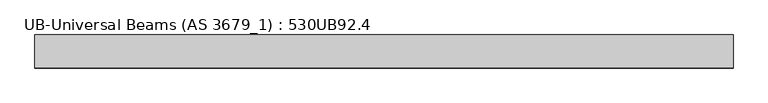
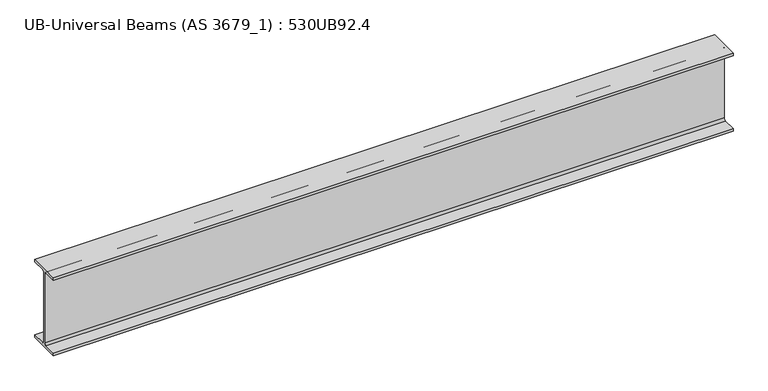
"""IFC4 building model written with IfcOpenShell, lengths in millimetres: beam geometry, UB-Universal Beams (AS 3679_1) : 530UB92.4."""

import ifcopenshell
import ifcopenshell.guid

model = None  # the IFC model being written
_history = None  # IfcOwnerHistory: only IFC2X3 demands one
_inside = {}  # id of a spatial element -> (the spatial element, [elements in it])
_under = {}  # id of a project, library or spatial element -> (it, [spatial elements below it])
_declared = {}  # id of a project -> (the project, [libraries it declares])
_typed = {}  # id of a type object -> (the type object, [elements of that type])
_made_of = {}  # id of a material, layer set ... -> (it, [elements and type objects made of it])


def new_model(schema):
    """Start an empty IFC model of exactly this schema.

    Asked for "IFC4X3", IfcOpenShell would pick the latest addendum, in which some entities
    have other attributes; the version numbers below select the first issue.
    IFC2X3 requires an IfcOwnerHistory on every rooted entity: one is made here for all.
    """
    global model, _history
    if schema == "IFC4X3":
        model = ifcopenshell.file(schema_version=(4, 3, 0, 0))
    else:
        model = ifcopenshell.file(schema=schema)
    _inside.clear()
    _under.clear()
    _declared.clear()
    _typed.clear()
    _made_of.clear()
    _history = None
    if model.schema == "IFC2X3":
        org = make("IfcOrganization", Name="unknown")
        user = make(
            "IfcPersonAndOrganization",
            ThePerson=make("IfcPerson", FamilyName="unknown"),
            TheOrganization=org,
        )
        app = make(
            "IfcApplication",
            ApplicationDeveloper=org,
            Version="unknown",
            ApplicationFullName="unknown",
            ApplicationIdentifier="unknown",
        )
        _history = make(
            "IfcOwnerHistory",
            OwningUser=user,
            OwningApplication=app,
            ChangeAction="ADDED",
            CreationDate=0,
        )
    return model


def make(cls, **values):
    """One entity of the class cls with the attributes given. An attribute that is None is left unset."""
    return model.create_entity(
        cls, **{name: value for name, value in values.items() if value is not None}
    )


def rooted(cls, **values):
    """An entity with a GlobalId (a new one), such as an element, a storey or a relation."""
    return make(cls, GlobalId=ifcopenshell.guid.new(), OwnerHistory=_history, **values)


def si_unit(unit_type, name, prefix=None):
    """IfcSIUnit, for example si_unit("LENGTHUNIT", "METRE", prefix="MILLI")."""
    return make("IfcSIUnit", UnitType=unit_type, Prefix=prefix, Name=name)


def assignment(units):
    """IfcUnitAssignment: the units of a project."""
    return None if units is None else make("IfcUnitAssignment", Units=units)


def point(xyz):
    """IfcCartesianPoint."""
    return None if xyz is None else make("IfcCartesianPoint", Coordinates=xyz)


def direction(xyz):
    """IfcDirection."""
    return None if xyz is None else make("IfcDirection", DirectionRatios=xyz)


def frame(location, z_axis=None, x_axis=None):
    """IfcAxis2Placement3D, a coordinate frame: its origin and axes. An axis left out is left unset."""
    return make(
        "IfcAxis2Placement3D",
        Location=point(location),
        Axis=direction(z_axis),
        RefDirection=direction(x_axis),
    )


def frame_2d(location, x_axis=None):
    """IfcAxis2Placement2D, a coordinate frame in the plane: its origin and x axis."""
    return make(
        "IfcAxis2Placement2D", Location=point(location), RefDirection=direction(x_axis)
    )


def origin():
    """The frame at (0, 0, 0) with its axes left unset."""
    return frame((0.0, 0.0, 0.0))


def place(relative_to, where):
    """IfcLocalPlacement: puts the frame where relative to a parent placement (None: the world)."""
    return make(
        "IfcLocalPlacement", PlacementRelTo=relative_to, RelativePlacement=where
    )


def context(
    kind, dimensions, precision=None, world=None, true_north=None, identifier=None
):
    """IfcGeometricRepresentationContext, for example the 3D "Model" context."""
    return make(
        "IfcGeometricRepresentationContext",
        ContextIdentifier=identifier,
        ContextType=kind,
        CoordinateSpaceDimension=dimensions,
        Precision=precision,
        WorldCoordinateSystem=world,
        TrueNorth=true_north,
    )


def project(units=None, contexts=None):
    """IfcProject with its units and contexts."""
    return rooted(
        "IfcProject",
        Name="project",
        RepresentationContexts=contexts,
        UnitsInContext=assignment(units),
    )


def spatial(cls, under=None, at=None, **own):
    """A site, building, storey or space (cls), placed at a placement, below another one or the project."""
    s = rooted(cls, ObjectPlacement=at, **own)
    if under is not None:
        _under.setdefault(under.id(), (under, []))[1].append(s)
    return s


def polyline(points):
    """IfcPolyline through the points."""
    return make("IfcPolyline", Points=[point(p) for p in points])


def circle_curve(where, radius):
    """IfcCircle in the frame where."""
    return make("IfcCircle", Position=where, Radius=radius)


def trimmed(basis, trim1, trim2, sense, master):
    """IfcTrimmedCurve: the piece of a basis curve between two trims."""
    return make(
        "IfcTrimmedCurve",
        BasisCurve=basis,
        Trim1=trim1,
        Trim2=trim2,
        SenseAgreement=sense,
        MasterRepresentation=master,
    )


def segment(curve, same_sense, transition):
    """IfcCompositeCurveSegment."""
    return make(
        "IfcCompositeCurveSegment",
        Transition=transition,
        SameSense=same_sense,
        ParentCurve=curve,
    )


def composite_curve(segments, self_intersect=None):
    """IfcCompositeCurve: segments joined end to end."""
    return make("IfcCompositeCurve", Segments=segments, SelfIntersect=self_intersect)


def outline(outer, holes=None, kind="AREA"):
    """IfcArbitraryClosedProfileDef: a profile drawn as a closed curve; with holes, ...WithVoids."""
    if holes is None:
        return make("IfcArbitraryClosedProfileDef", ProfileType=kind, OuterCurve=outer)
    return make(
        "IfcArbitraryProfileDefWithVoids",
        ProfileType=kind,
        OuterCurve=outer,
        InnerCurves=holes,
    )


def extrude(swept, where, along, depth):
    """IfcExtrudedAreaSolid: the profile swept, set in the frame where, extruded along a direction by depth."""
    return make(
        "IfcExtrudedAreaSolid",
        SweptArea=swept,
        Position=where,
        ExtrudedDirection=direction(along),
        Depth=depth,
    )


def shape(context_of_items, identifier, shape_type, items):
    """IfcShapeRepresentation: the items that make up one representation, for example the "Body"."""
    return make(
        "IfcShapeRepresentation",
        ContextOfItems=context_of_items,
        RepresentationIdentifier=identifier,
        RepresentationType=shape_type,
        Items=items,
    )


def source(mapping_origin, context_of_items, identifier, shape_type, items):
    """IfcRepresentationMap: a shape defined once, which mapped items show again and again."""
    return make(
        "IfcRepresentationMap",
        MappingOrigin=mapping_origin,
        MappedRepresentation=shape(context_of_items, identifier, shape_type, items),
    )


def transform(
    local_origin,
    x_axis=None,
    y_axis=None,
    z_axis=None,
    scale=None,
    scale2=None,
    scale3=None,
    uniform=True,
):
    """IfcCartesianTransformationOperator3D, or its non-uniform kind. x_axis, y_axis, z_axis: its Axis1, 2, 3."""
    if uniform:
        return make(
            "IfcCartesianTransformationOperator3D",
            Axis1=direction(x_axis),
            Axis2=direction(y_axis),
            LocalOrigin=point(local_origin),
            Scale=scale,
            Axis3=direction(z_axis),
        )
    return make(
        "IfcCartesianTransformationOperator3DnonUniform",
        Axis1=direction(x_axis),
        Axis2=direction(y_axis),
        LocalOrigin=point(local_origin),
        Scale=scale,
        Axis3=direction(z_axis),
        Scale2=scale2,
        Scale3=scale3,
    )


def mapped(mapping_source, mapping_target):
    """IfcMappedItem: shows the shape of a source again, moved by a transform."""
    return make(
        "IfcMappedItem", MappingSource=mapping_source, MappingTarget=mapping_target
    )


def made_of(thing, what):
    """Note that an element or type object is made of a material, layer set ...; save() writes the relation."""
    if what is not None:
        _made_of.setdefault(what.id(), (what, []))[1].append(thing)
    return thing


def element(
    cls,
    number,
    at=None,
    inside=None,
    cuts=None,
    type_object=None,
    material=None,
    context=None,
    identifier="Body",
    shape_type=None,
    held_by="IfcProductDefinitionShape",
    body=None,
    shapes=None,
    **own,
):
    """One element of the class cls, such as IfcWall. Its Tag is "e" and its number.

    at: its placement. inside: the storey or other place that contains it. cuts: it is an
    opening in that element (IfcRelVoidsElement). A single representation is given by context,
    identifier, shape_type and body (its items); several are given by shapes. held_by: the class
    of the entity that holds the representations. save() writes the other relations.
    """
    e = rooted(cls, Tag="e%d" % number, ObjectPlacement=at, **own)
    if body is not None:
        shapes = [shape(context, identifier, shape_type, body)]
    if shapes is not None:
        e.Representation = make(held_by, Representations=shapes)
    if inside is not None:
        _inside.setdefault(inside.id(), (inside, []))[1].append(e)
    if cuts is not None:
        rooted(
            "IfcRelVoidsElement", RelatingBuildingElement=cuts, RelatedOpeningElement=e
        )
    if type_object is not None:
        _typed.setdefault(type_object.id(), (type_object, []))[1].append(e)
    return made_of(e, material)


def aggregate(whole, parts):
    """IfcRelAggregates: a whole, such as a stair, and the parts it consists of."""
    return rooted("IfcRelAggregates", RelatingObject=whole, RelatedObjects=parts)


def save(model, path):
    """Write the relations noted so far, then the file.

    IfcRelAggregates (storeys below a building ...), IfcRelContainedInSpatialStructure (elements
    in a storey), IfcRelDefinesByType, IfcRelAssociatesMaterial and IfcRelDeclares: one each for
    every whole, place, type object, material and project.
    """
    for whole, parts in _under.values():
        aggregate(whole, parts)
    for where, things in _inside.values():
        rooted(
            "IfcRelContainedInSpatialStructure",
            RelatedElements=things,
            RelatingStructure=where,
        )
    for kind, things in _typed.values():
        rooted("IfcRelDefinesByType", RelatedObjects=things, RelatingType=kind)
    for what, things in _made_of.values():
        rooted("IfcRelAssociatesMaterial", RelatedObjects=things, RelatingMaterial=what)
    for by, libraries in _declared.values():
        rooted("IfcRelDeclares", RelatingContext=by, RelatedDefinitions=libraries)
    model.write(path)


def ub_universal_beams_as_3679_1_530ub92_4_72efcd79(model_context):
    return source(origin(), model_context, "Body", "SweptSolid", [
        extrude(outline(composite_curve([segment(polyline([(104.5, -250.9), (104.5, -266.5), (-104.5, -266.5), (-104.5, -250.9), (-19.1, -250.9)]), True, "CONTINUOUS"), segment(trimmed(circle_curve(frame_2d((-19.1, -236.9)), 14.0), [point((-19.1, -250.9))], [point((-5.1, -236.9))], True, "CARTESIAN"), True, "CONTINUOUS"), segment(polyline([(-5.1, -236.9), (-5.1, 236.9)]), True, "CONTINUOUS"), segment(trimmed(circle_curve(frame_2d((-19.1, 236.9)), 14.0), [point((-5.1, 236.9))], [point((-19.1, 250.9))], True, "CARTESIAN"), True, "CONTINUOUS"), segment(polyline([(-19.1, 250.9), (-104.5, 250.9), (-104.5, 266.5), (104.5, 266.5), (104.5, 250.9), (19.1, 250.9)]), True, "CONTINUOUS"), segment(trimmed(circle_curve(frame_2d((19.1, 236.9)), 14.0), [point((19.1, 250.9))], [point((5.1, 236.9))], True, "CARTESIAN"), True, "CONTINUOUS"), segment(polyline([(5.1, 236.9), (5.1, -236.9)]), True, "CONTINUOUS"), segment(trimmed(circle_curve(frame_2d((19.1, -236.9)), 14.0), [point((5.1, -236.9))], [point((19.1, -250.9))], True, "CARTESIAN"), True, "CONTINUOUS"), segment(polyline([(19.1, -250.9), (104.5, -250.9)]), True, "CONTINUOUS")], self_intersect=False)), frame((-2098.6, 0.0, 0.0), z_axis=(1.0, 0.0, 0.0), x_axis=(0.0, 1.0, 0.0)), (0.0, 0.0, 1.0), 4411.1),
    ])


if __name__ == "__main__":
    model = new_model("IFC4")
    model_context = context("Model", 3, world=origin())
    ifc_project = project(units=[si_unit("LENGTHUNIT", "METRE", prefix="MILLI")], contexts=[model_context])
    site = spatial("IfcSite", under=ifc_project)
    building = spatial("IfcBuilding", under=site)
    placement = place(None, origin())
    ub_universal_beams_as_3679_1_530ub92_4_shape = ub_universal_beams_as_3679_1_530ub92_4_72efcd79(model_context)
    element("IfcBeam", 1, ObjectType="UB-Universal Beams (AS 3679_1) : 530UB92.4", at=placement, inside=building, context=model_context, shape_type="MappedRepresentation", body=[
        mapped(ub_universal_beams_as_3679_1_530ub92_4_shape, transform((0.0, 0.0, 0.0), x_axis=(1.0, 0.0, 0.0), y_axis=(0.0, 1.0, 0.0), z_axis=(0.0, 0.0, 1.0))),
    ])
    save(model, "model.ifc")
